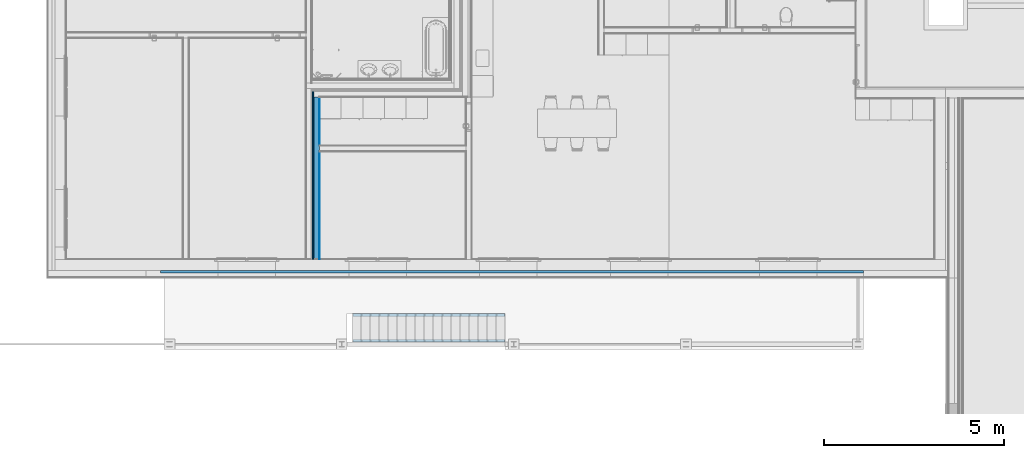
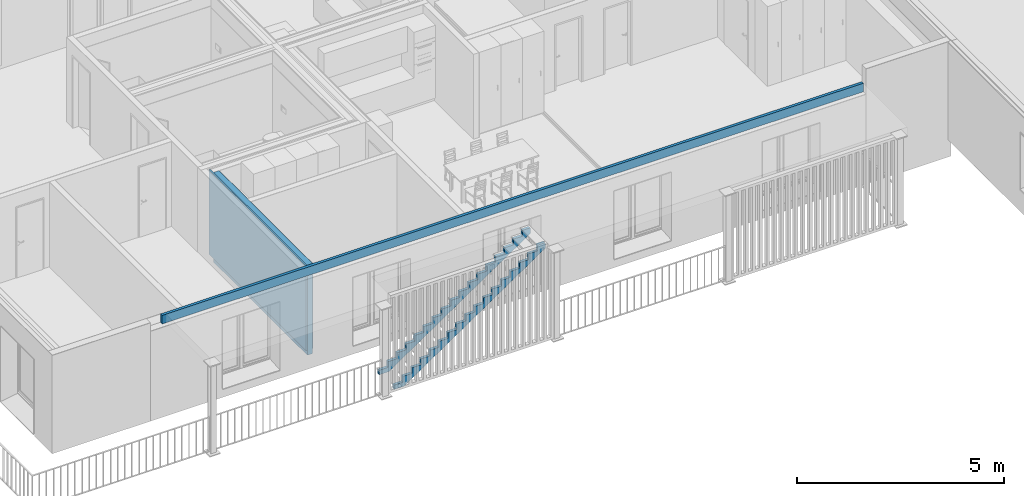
# One storey, part 4 of 34: 4 building element parts, 1 discrete accessory, 2 elements without a shape of their own.
"""IFC4 building model written with IfcOpenShell, lengths in millimetres."""

from ifc_helpers import new_model, entity, si_unit, converted_unit, derived_unit, direction, frame, origin_with_axes, place, context, subcontext, project, spatial, polygons, material, type_object, element, aggregate, save


model = new_model("IFC4")

# Units and contexts
model_context = context("Model", 3, precision=0.01, world=origin_with_axes(), true_north=direction((0.0, 1.0)))
body_context = subcontext(model_context, "Body", "Model", "MODEL_VIEW")
ifc_project = project(units=[si_unit("LENGTHUNIT", "METRE", prefix="MILLI"), si_unit("AREAUNIT", "SQUARE_METRE"), si_unit("VOLUMEUNIT", "CUBIC_METRE"), converted_unit("PLANEANGLEUNIT", "DEGREE", entity("IfcPlaneAngleMeasure", 0.0174532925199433), si_unit("PLANEANGLEUNIT", "RADIAN"), dimensions=[0, 0, 0, 0, 0, 0, 0]), converted_unit("TIMEUNIT", "Year", entity("IfcTimeMeasure", 31557600.0), si_unit("TIMEUNIT", "SECOND"), dimensions=[0, 0, 1, 0, 0, 0, 0]), si_unit("MASSUNIT", "GRAM", prefix="KILO"), si_unit("THERMODYNAMICTEMPERATUREUNIT", "DEGREE_CELSIUS"), si_unit("LUMINOUSINTENSITYUNIT", "LUMEN"), si_unit("ENERGYUNIT", "JOULE", prefix="MEGA"), derived_unit("THERMALCONDUCTANCEUNIT", [(si_unit("POWERUNIT", "WATT"), 1), (si_unit("LENGTHUNIT", "METRE"), -1), (si_unit("THERMODYNAMICTEMPERATUREUNIT", "KELVIN"), -1)]), derived_unit("SPECIFICHEATCAPACITYUNIT", [(si_unit("ENERGYUNIT", "JOULE"), 1), (si_unit("MASSUNIT", "GRAM", prefix="KILO"), -1), (si_unit("THERMODYNAMICTEMPERATUREUNIT", "KELVIN"), -1)]), derived_unit("MASSDENSITYUNIT", [(si_unit("MASSUNIT", "GRAM", prefix="KILO"), 1), (si_unit("VOLUMEUNIT", "CUBIC_METRE"), -1)])], contexts=[model_context])

# Site, building, storey
site_placement = place(None, origin_with_axes())
site = spatial("IfcSite", under=ifc_project, at=site_placement, Name="Gelände", CompositionType="ELEMENT")
building_placement = place(site_placement, origin_with_axes())
building = spatial("IfcBuilding", under=site, at=building_placement, Name="Gebäude", CompositionType="ELEMENT")
storey_placement = place(building_placement, frame((0.0, 0.0, 5799.999999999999), z_axis=(0.0, 0.0, 1.0), x_axis=(1.0, 0.0, 0.0)))
storey = spatial("IfcBuildingStorey", under=building, at=storey_placement, Name="2.OG", CompositionType="ELEMENT", Elevation=5800.0)

# Discrete accessory
ifc_material_1 = material(Name="Bewehrung")
discrete_accessory_type = type_object("IfcDiscreteAccessoryType", Name="Bewehrung 80 x 250", PredefinedType="NOTDEFINED")
discrete_accessory_placement = place(storey_placement, frame((-3925.204181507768, 23157.59674077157, 2649.999948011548), z_axis=(0.0, 0.0, 1.0), x_axis=(0.0, -1.0, 0.0)))
element("IfcDiscreteAccessory", 1, at=discrete_accessory_placement, inside=storey, type_object=discrete_accessory_type, material=ifc_material_1, Name="Unterzug-029", PredefinedType="NOTDEFINED", context=body_context, shape_type="Tessellation", body=[
    polygons([(0.0, 19563.19999999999, 0.0), (79.9999999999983, 19563.19999999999, 0.0), (79.9999999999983, 0.0, 0.0), (0.0, 0.0, 0.0), (0.0, 19563.19999999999, 250.0), (79.9999999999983, 19563.19999999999, 250.0), (79.9999999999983, 0.0, 250.0), (0.0, 0.0, 250.0)], [[[1, 2, 3, 4]], [[1, 5, 6, 2]], [[2, 6, 7, 3]], [[4, 3, 7, 8]], [[5, 1, 4, 8]], [[6, 5, 8, 7]]], closed=True),
])

# Wall, building element parts
wall_type = type_object("IfcWallType", Name="Trennwand Typ 03 - verputzt 200", PredefinedType="NOTDEFINED")
wall_placement = place(storey_placement, frame((492.9958000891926, 27984.37338563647, 0.0), z_axis=(0.0, 0.0, 1.0), x_axis=(0.0, -1.0, 0.0)))
wall = element("IfcWall", 2, at=wall_placement, inside=storey, type_object=wall_type, Name="Wand-014", PredefinedType="NOTDEFINED")
ifc_material_2 = material(Name="Kalkzementputz Aussen")
building_element_part_1_placement = place(wall_placement, origin_with_axes())
building_element_part_1 = element("IfcBuildingElementPart", 3, at=building_element_part_1_placement, material=ifc_material_2, Name="Kalkzementputz Aussen", PredefinedType="NOTDEFINED", context=body_context, shape_type="Tessellation", body=[
    polygons([(4526.776644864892, 10.00000000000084, 150.0000000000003), (1516.77664486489, 10.00000000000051, 150.0000000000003), (1516.77664486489, 10.00000000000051, 2649.999948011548), (4526.776644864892, 10.00000000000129, 2649.999948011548), (1516.77664486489, 0.0, 150.0000000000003), (4526.776644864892, 0.0, 150.0000000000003), (1516.77664486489, 0.0, 2649.999948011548), (4526.776644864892, 0.0, 2649.999948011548)], [[[1, 2, 3, 4]], [[5, 2, 1, 6]], [[2, 5, 7, 3]], [[7, 8, 4, 3]], [[6, 1, 4, 8]], [[5, 6, 8, 7]]], closed=True),
    polygons([(1366.776644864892, 10.00000000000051, 150.0000000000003), (10.00000000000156, 9.999999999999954, 150.0000000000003), (10.00000000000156, 9.999999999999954, 2649.999948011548), (1366.776644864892, 10.00000000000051, 2649.999948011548), (10.00000000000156, 0.0, 150.0000000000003), (1366.776644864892, 0.0, 150.0000000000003), (10.00000000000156, 0.0, 2649.999948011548), (1366.776644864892, 0.0, 2649.999948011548)], [[[1, 2, 3, 4]], [[5, 2, 1, 6]], [[2, 5, 7, 3]], [[8, 4, 3, 7]], [[6, 1, 4, 8]], [[5, 6, 8, 7]]], closed=True),
])
ifc_material_3 = material(Name="MW, Backstein")
building_element_part_2_placement = place(wall_placement, origin_with_axes())
building_element_part_2 = element("IfcBuildingElementPart", 4, at=building_element_part_2_placement, material=ifc_material_3, Name="MW, Backstein", PredefinedType="NOTDEFINED", context=body_context, shape_type="Tessellation", body=[
    polygons([(4526.776644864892, -149.9999999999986, 2649.999948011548), (4526.776644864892, 0.0, 2649.999948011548), (0.0, 0.0, 2649.999948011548), (0.0, -149.9999999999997, 2649.999948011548), (4526.776644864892, -149.9999999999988, 0.0), (4526.776644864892, 0.0, 0.0), (0.0, 0.0, 0.0), (0.0, -150.0, 0.0)], [[[1, 2, 3, 4]], [[1, 5, 6, 2]], [[2, 6, 7, 3]], [[4, 3, 7, 8]], [[5, 1, 4, 8]], [[6, 5, 8, 7]]], closed=True),
])
ifc_material_4 = material(Name="Dämmung Innen")
building_element_part_3_placement = place(wall_placement, origin_with_axes())
building_element_part_3 = element("IfcBuildingElementPart", 5, at=building_element_part_3_placement, material=ifc_material_4, Name="Dämmung Innen", PredefinedType="NOTDEFINED", context=body_context, shape_type="Tessellation", body=[
    polygons([(4526.776644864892, -149.9999999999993, 150.0000000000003), (-149.9999999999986, -150.0000000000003, 150.0000000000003), (-149.9999999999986, -149.9999999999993, 2649.999948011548), (4526.776644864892, -149.9999999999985, 2649.999948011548), (-149.9999999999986, -190.0000000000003, 150.0000000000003), (4526.776644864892, -189.9999999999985, 150.0000000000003), (-149.9999999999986, -190.0000000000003, 2649.999948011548), (4526.776644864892, -189.9999999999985, 2649.999948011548)], [[[1, 2, 3, 4]], [[5, 2, 1, 6]], [[2, 5, 7, 3]], [[7, 8, 4, 3]], [[6, 1, 4, 8]], [[5, 6, 8, 7]]], closed=True),
])
aggregate(wall, [building_element_part_1, building_element_part_2, building_element_part_3])

# Stair, building element part
stair_type = type_object("IfcStairType", Name="Treppentyp 01 - Metall - Holz", PredefinedType="NOTDEFINED")
stair_placement = place(storey_placement, frame((967.6586056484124, 21069.06207956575, 0.0), z_axis=(0.0, 0.0, 1.0), x_axis=(-0.01941475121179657, 0.9998115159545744, 0.0)))
stair = element("IfcStair", 6, at=stair_placement, inside=storey, type_object=stair_type, Name="Treppe-001", PredefinedType="NOTDEFINED")
ifc_material_5 = material(Name="Stahl")
building_element_part_4_placement = place(stair_placement, origin_with_axes())
building_element_part_4 = element("IfcBuildingElementPart", 7, at=building_element_part_4_placement, material=ifc_material_5, Name="Stahl", PredefinedType="NOTDEFINED", context=body_context, shape_type="Tessellation", body=[
    polygons([(797.3365201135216, -4705.104140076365, 2839.529411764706), (797.6077085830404, -4691.138606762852, 2860.0), (717.6227873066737, -4689.585426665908, 2860.0), (717.3515988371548, -4703.550959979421, 2839.529411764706), (801.6077653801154, -4485.145606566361, 2689.411764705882), (801.6077653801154, -4485.145606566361, 2860.0), (797.3365201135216, -4705.104140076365, 2694.254776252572), (873.9952153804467, -757.3715376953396, 0.0), (879.2667702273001, -485.8995427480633, 0.0), (879.2667702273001, -485.8995427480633, 130.5882352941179), (874.4130824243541, -735.8524217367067, 130.5882352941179), (874.4130824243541, -735.8524217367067, 301.1764705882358), (869.5593946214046, -985.8053007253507, 301.1764705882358), (869.5593946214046, -985.8053007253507, 471.7647058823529), (864.7057068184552, -1235.758179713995, 471.7647058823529), (864.7057068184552, -1235.758179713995, 642.3529411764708), (859.8520190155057, -1485.711058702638, 642.3529411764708), (859.8520190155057, -1485.711058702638, 812.9411764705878), (854.9983312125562, -1735.663937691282, 812.9411764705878), (854.9983312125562, -1735.663937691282, 983.5294117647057), (850.1446434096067, -1985.616816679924, 983.5294117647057), (850.1446434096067, -1985.616816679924, 1154.117647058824), (845.2909556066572, -2235.569695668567, 1154.117647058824), (845.2909556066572, -2235.569695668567, 1324.705882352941), (840.4372678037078, -2485.52257465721, 1324.705882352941), (840.4372678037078, -2485.52257465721, 1495.294117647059), (835.5835800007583, -2735.475453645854, 1495.294117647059), (835.5835800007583, -2735.475453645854, 1665.882352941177), (830.7298921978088, -2985.428332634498, 1665.882352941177), (830.7298921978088, -2985.428332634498, 1836.470588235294), (825.8762043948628, -3235.381211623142, 1836.470588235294), (825.8762043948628, -3235.381211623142, 2007.058823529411), (821.0225165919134, -3485.334090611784, 2007.058823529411), (821.0225165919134, -3485.334090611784, 2177.647058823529), (816.1688287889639, -3735.28696960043, 2177.647058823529), (816.1688287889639, -3735.28696960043, 2348.235294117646), (811.3151409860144, -3985.239848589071, 2348.235294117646), (811.3151409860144, -3985.239848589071, 2518.823529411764), (806.4614531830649, -4235.192727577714, 2518.823529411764), (806.4614531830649, -4235.192727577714, 2689.411764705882), (721.6228441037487, -4483.592426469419, 2860.0), (721.6228441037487, -4483.592426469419, 2689.411764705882), (726.4765319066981, -4233.639547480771, 2689.411764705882), (726.4765319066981, -4233.639547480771, 2518.823529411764), (731.3302197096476, -3983.686668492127, 2518.823529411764), (731.3302197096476, -3983.686668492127, 2348.235294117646), (736.1839075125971, -3733.733789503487, 2348.235294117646), (736.1839075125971, -3733.733789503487, 2177.647058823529), (741.0375953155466, -3483.780910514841, 2177.647058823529), (741.0375953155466, -3483.780910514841, 2007.058823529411), (745.8912831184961, -3233.828031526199, 2007.058823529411), (745.8912831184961, -3233.828031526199, 1836.470588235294), (750.744970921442, -2983.875152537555, 1836.470588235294), (750.744970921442, -2983.875152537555, 1665.882352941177), (755.5986587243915, -2733.92227354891, 1665.882352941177), (755.5986587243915, -2733.92227354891, 1495.294117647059), (760.452346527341, -2483.969394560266, 1495.294117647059), (760.452346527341, -2483.969394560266, 1324.705882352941), (765.3060343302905, -2234.016515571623, 1324.705882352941), (765.3060343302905, -2234.016515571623, 1154.117647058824), (770.1597221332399, -1984.063636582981, 1154.117647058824), (770.1597221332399, -1984.063636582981, 983.5294117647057), (775.0134099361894, -1734.110757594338, 983.5294117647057), (775.0134099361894, -1734.110757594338, 812.9411764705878), (779.8670977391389, -1484.157878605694, 812.9411764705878), (779.8670977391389, -1484.157878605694, 642.3529411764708), (784.7207855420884, -1234.204999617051, 642.3529411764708), (784.7207855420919, -1234.204999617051, 471.7647058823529), (789.5744733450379, -984.2521206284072, 471.7647058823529), (789.5744733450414, -984.2521206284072, 301.1764705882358), (794.4281611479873, -734.2992416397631, 301.1764705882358), (794.4281611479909, -734.2992416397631, 130.5882352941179), (799.2818489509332, -484.3463626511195, 130.5882352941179), (799.2818489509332, -484.3463626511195, 0.0), (794.0102941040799, -755.8183575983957, 0.0), (717.3515988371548, -4703.550959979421, 2694.254776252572)], [[[1, 2, 3, 4]], [[5, 6, 2, 1, 7, 8, 9, 10, 11, 12, 13, 14, 15, 16, 17, 18, 19, 20, 21, 22, 23, 24, 25, 26, 27, 28, 29, 30, 31, 32, 33, 34, 35, 36, 37, 38, 39, 40]], [[6, 41, 3, 2]], [[4, 3, 41, 42, 43, 44, 45, 46, 47, 48, 49, 50, 51, 52, 53, 54, 55, 56, 57, 58, 59, 60, 61, 62, 63, 64, 65, 66, 67, 68, 69, 70, 71, 72, 73, 74, 75, 76]], [[1, 4, 76, 7]], [[42, 41, 6, 5]], [[7, 76, 75, 8]], [[8, 75, 74, 9]], [[74, 73, 10, 9]], [[10, 73, 72, 11]], [[11, 72, 71, 12]], [[13, 12, 71, 70]], [[14, 13, 70, 69]], [[68, 15, 14, 69]], [[67, 16, 15, 68]], [[67, 66, 17, 16]], [[66, 65, 18, 17]], [[18, 65, 64, 19]], [[19, 64, 63, 20]], [[21, 20, 63, 62]], [[22, 21, 62, 61]], [[60, 23, 22, 61]], [[59, 24, 23, 60]], [[59, 58, 25, 24]], [[58, 57, 26, 25]], [[26, 57, 56, 27]], [[27, 56, 55, 28]], [[29, 28, 55, 54]], [[30, 29, 54, 53]], [[52, 31, 30, 53]], [[51, 32, 31, 52]], [[51, 50, 33, 32]], [[50, 49, 34, 33]], [[34, 49, 48, 35]], [[35, 48, 47, 36]], [[37, 36, 47, 46]], [[38, 37, 46, 45]], [[44, 39, 38, 45]], [[43, 40, 39, 44]], [[43, 42, 5, 40]]], closed=True),
    polygons([(77.47222862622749, -4691.125519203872, 2839.529411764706), (77.74341709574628, -4677.159985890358, 2860.0), (-2.241504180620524, -4675.606805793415, 2860.0), (-2.512692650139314, -4689.572339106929, 2839.529411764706), (81.74347389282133, -4471.166985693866, 2689.411764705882), (81.74347389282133, -4471.166985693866, 2860.0), (77.47222862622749, -4691.125519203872, 2694.254776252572), (154.1309238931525, -743.3929168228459, 0.0), (159.4024787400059, -471.9209218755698, 0.0), (159.4024787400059, -471.9209218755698, 130.5882352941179), (154.54879093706, -721.8738008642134, 130.5882352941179), (154.54879093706, -721.8738008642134, 301.1764705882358), (149.6951031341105, -971.8266798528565, 301.1764705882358), (149.6951031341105, -971.8266798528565, 471.7647058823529), (144.841415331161, -1221.779558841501, 471.7647058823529), (144.841415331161, -1221.779558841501, 642.3529411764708), (139.9877275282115, -1471.732437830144, 642.3529411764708), (139.9877275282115, -1471.732437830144, 812.9411764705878), (135.1340397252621, -1721.685316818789, 812.9411764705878), (135.1340397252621, -1721.685316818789, 983.5294117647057), (130.2803519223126, -1971.638195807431, 983.5294117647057), (130.2803519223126, -1971.638195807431, 1154.117647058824), (125.4266641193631, -2221.591074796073, 1154.117647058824), (125.4266641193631, -2221.591074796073, 1324.705882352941), (120.5729763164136, -2471.543953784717, 1324.705882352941), (120.5729763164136, -2471.543953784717, 1495.294117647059), (115.7192885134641, -2721.496832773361, 1495.294117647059), (115.7192885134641, -2721.496832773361, 1665.882352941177), (110.8656007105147, -2971.449711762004, 1665.882352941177), (110.8656007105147, -2971.449711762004, 1836.470588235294), (106.0119129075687, -3221.402590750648, 1836.470588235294), (106.0119129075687, -3221.402590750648, 2007.058823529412), (101.1582251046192, -3471.355469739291, 2007.058823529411), (101.1582251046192, -3471.355469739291, 2177.647058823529), (96.30453730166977, -3721.308348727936, 2177.647058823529), (96.30453730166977, -3721.308348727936, 2348.235294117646), (91.45084949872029, -3971.261227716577, 2348.235294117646), (91.45084949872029, -3971.261227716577, 2518.823529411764), (86.59716169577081, -4221.214106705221, 2518.823529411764), (86.59716169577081, -4221.214106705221, 2689.411764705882), (1.758552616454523, -4469.613805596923, 2860.0), (1.758552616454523, -4469.613805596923, 2689.411764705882), (6.612240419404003, -4219.660926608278, 2689.411764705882), (6.612240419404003, -4219.660926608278, 2518.823529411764), (11.46592822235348, -3969.708047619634, 2518.823529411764), (11.46592822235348, -3969.708047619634, 2348.235294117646), (16.31961602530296, -3719.755168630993, 2348.235294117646), (16.31961602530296, -3719.755168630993, 2177.647058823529), (21.17330382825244, -3469.802289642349, 2177.647058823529), (21.17330382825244, -3469.802289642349, 2007.058823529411), (26.02699163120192, -3219.849410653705, 2007.058823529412), (26.02699163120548, -3219.849410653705, 1836.470588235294), (30.8806794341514, -2969.896531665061, 1836.470588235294), (30.8806794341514, -2969.896531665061, 1665.882352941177), (35.73436723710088, -2719.943652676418, 1665.882352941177), (35.73436723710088, -2719.943652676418, 1495.294117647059), (40.58805504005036, -2469.990773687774, 1495.294117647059), (40.58805504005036, -2469.990773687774, 1324.705882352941), (45.44174284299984, -2220.03789469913, 1324.705882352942), (45.44174284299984, -2220.03789469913, 1154.117647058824), (50.29543064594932, -1970.085015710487, 1154.117647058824), (50.29543064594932, -1970.085015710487, 983.5294117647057), (55.1491184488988, -1720.132136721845, 983.5294117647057), (55.1491184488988, -1720.132136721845, 812.9411764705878), (60.00280625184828, -1470.1792577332, 812.9411764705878), (60.00280625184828, -1470.1792577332, 642.3529411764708), (64.85649405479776, -1220.226378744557, 642.3529411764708), (64.85649405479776, -1220.226378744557, 471.7647058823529), (69.71018185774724, -970.273499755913, 471.7647058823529), (69.71018185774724, -970.273499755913, 301.1764705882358), (74.56386966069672, -720.3206207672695, 301.1764705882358), (74.56386966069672, -720.3206207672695, 130.5882352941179), (79.41755746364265, -470.3677417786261, 130.5882352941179), (79.41755746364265, -470.3677417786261, 0.0), (74.14600261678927, -741.8397367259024, 0.0), (-2.512692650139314, -4689.572339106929, 2694.254776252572)], [[[1, 2, 3, 4]], [[5, 6, 2, 1, 7, 8, 9, 10, 11, 12, 13, 14, 15, 16, 17, 18, 19, 20, 21, 22, 23, 24, 25, 26, 27, 28, 29, 30, 31, 32, 33, 34, 35, 36, 37, 38, 39, 40]], [[6, 41, 3, 2]], [[4, 3, 41, 42, 43, 44, 45, 46, 47, 48, 49, 50, 51, 52, 53, 54, 55, 56, 57, 58, 59, 60, 61, 62, 63, 64, 65, 66, 67, 68, 69, 70, 71, 72, 73, 74, 75, 76]], [[1, 4, 76, 7]], [[42, 41, 6, 5]], [[7, 76, 75, 8]], [[8, 75, 74, 9]], [[74, 73, 10, 9]], [[10, 73, 72, 11]], [[11, 72, 71, 12]], [[13, 12, 71, 70]], [[14, 13, 70, 69]], [[68, 15, 14, 69]], [[67, 16, 15, 68]], [[67, 66, 17, 16]], [[66, 65, 18, 17]], [[18, 65, 64, 19]], [[19, 64, 63, 20]], [[21, 20, 63, 62]], [[22, 21, 62, 61]], [[60, 23, 22, 61]], [[59, 24, 23, 60]], [[59, 58, 25, 24]], [[58, 57, 26, 25]], [[26, 57, 56, 27]], [[27, 56, 55, 28]], [[29, 28, 55, 54]], [[30, 29, 54, 53]], [[52, 31, 30, 53]], [[51, 32, 31, 52]], [[51, 50, 33, 32]], [[50, 49, 34, 33]], [[34, 49, 48, 35]], [[35, 48, 47, 36]], [[37, 36, 47, 46]], [[38, 37, 46, 45]], [[44, 39, 38, 45]], [[43, 40, 39, 44]], [[43, 42, 5, 40]]], closed=True),
])
aggregate(stair, [building_element_part_4])

save(model, "model.ifc")
